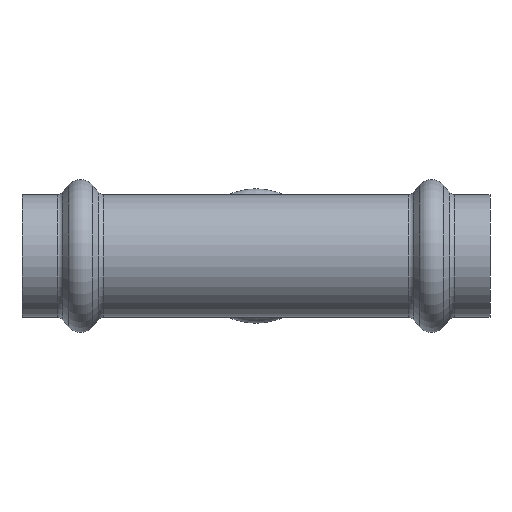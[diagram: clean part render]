
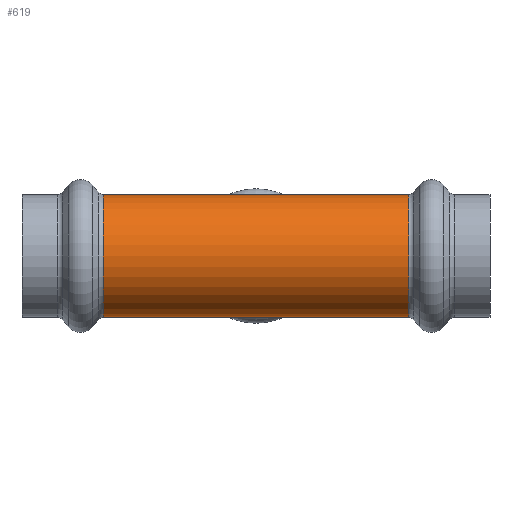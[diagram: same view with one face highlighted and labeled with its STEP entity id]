
A CAD part, front view. The second image highlights one B-rep face of the part: STEP entity #619.
In plain terms, the highlighted cylindrical face has radius 10.5 mm (diameter 21 mm), a partial arc.
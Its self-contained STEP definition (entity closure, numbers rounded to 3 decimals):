
#77 = DIRECTION ( 'NONE',  ( 0., 0., 1. ) ) ;
#233 = AXIS2_PLACEMENT_3D ( 'NONE', #2420, #850, #77 ) ;
#239 = ORIENTED_EDGE ( 'NONE', *, *, #4639, .T. ) ;
#546 = CARTESIAN_POINT ( 'NONE',  ( -26.123, 0., 10.5 ) ) ;
#619 = ADVANCED_FACE ( 'NONE', ( #3859 ), #4758, .T. ) ;
#620 = CARTESIAN_POINT ( 'NONE',  ( 26.123, 0., 0. ) ) ;
#831 = VERTEX_POINT ( 'NONE', #546 ) ;
#850 = DIRECTION ( 'NONE',  ( -1., 0., 0. ) ) ;
#946 = CARTESIAN_POINT ( 'NONE',  ( 26.123, 0., 10.5 ) ) ;
#1019 = DIRECTION ( 'NONE',  ( 0., 0., 1. ) ) ;
#1050 = CARTESIAN_POINT ( 'NONE',  ( -58.611, 0., -10.5 ) ) ;
#1329 = DIRECTION ( 'NONE',  ( 1., 0., 0. ) ) ;
#1782 = EDGE_CURVE ( 'NONE', #4339, #3240, #3506, .T. ) ;
#1877 = CARTESIAN_POINT ( 'NONE',  ( -26.123, 0., -10.5 ) ) ;
#1968 = ORIENTED_EDGE ( 'NONE', *, *, #1782, .F. ) ;
#2247 = ORIENTED_EDGE ( 'NONE', *, *, #4270, .T. ) ;
#2275 = CIRCLE ( 'NONE', #2405, 10.5 ) ;
#2308 = DIRECTION ( 'NONE',  ( -1., 0., 0. ) ) ;
#2405 = AXIS2_PLACEMENT_3D ( 'NONE', #620, #3342, #1019 ) ;
#2420 = CARTESIAN_POINT ( 'NONE',  ( -58.611, 0., 0. ) ) ;
#2665 = CARTESIAN_POINT ( 'NONE',  ( -58.611, 0., 10.5 ) ) ;
#2825 = AXIS2_PLACEMENT_3D ( 'NONE', #3663, #1329, #4043 ) ;
#3112 = CARTESIAN_POINT ( 'NONE',  ( 26.123, 0., -10.5 ) ) ;
#3240 = VERTEX_POINT ( 'NONE', #1877 ) ;
#3243 = LINE ( 'NONE', #2665, #4029 ) ;
#3256 = VECTOR ( 'NONE', #3376, 1000. ) ;
#3342 = DIRECTION ( 'NONE',  ( -1., 0., 0. ) ) ;
#3376 = DIRECTION ( 'NONE',  ( -1., 0., 0. ) ) ;
#3404 = VERTEX_POINT ( 'NONE', #946 ) ;
#3506 = LINE ( 'NONE', #1050, #3256 ) ;
#3663 = CARTESIAN_POINT ( 'NONE',  ( -26.123, 0., 0. ) ) ;
#3693 = CIRCLE ( 'NONE', #2825, 10.5 ) ;
#3790 = EDGE_LOOP ( 'NONE', ( #1968, #239, #2247, #4569 ) ) ;
#3859 = FACE_OUTER_BOUND ( 'NONE', #3790, .T. ) ;
#4029 = VECTOR ( 'NONE', #2308, 1000. ) ;
#4043 = DIRECTION ( 'NONE',  ( 0., 0., -1. ) ) ;
#4270 = EDGE_CURVE ( 'NONE', #3404, #831, #3243, .T. ) ;
#4339 = VERTEX_POINT ( 'NONE', #3112 ) ;
#4569 = ORIENTED_EDGE ( 'NONE', *, *, #4970, .T. ) ;
#4639 = EDGE_CURVE ( 'NONE', #4339, #3404, #2275, .T. ) ;
#4758 = CYLINDRICAL_SURFACE ( 'NONE', #233, 10.5 ) ;
#4970 = EDGE_CURVE ( 'NONE', #831, #3240, #3693, .T. ) ;
